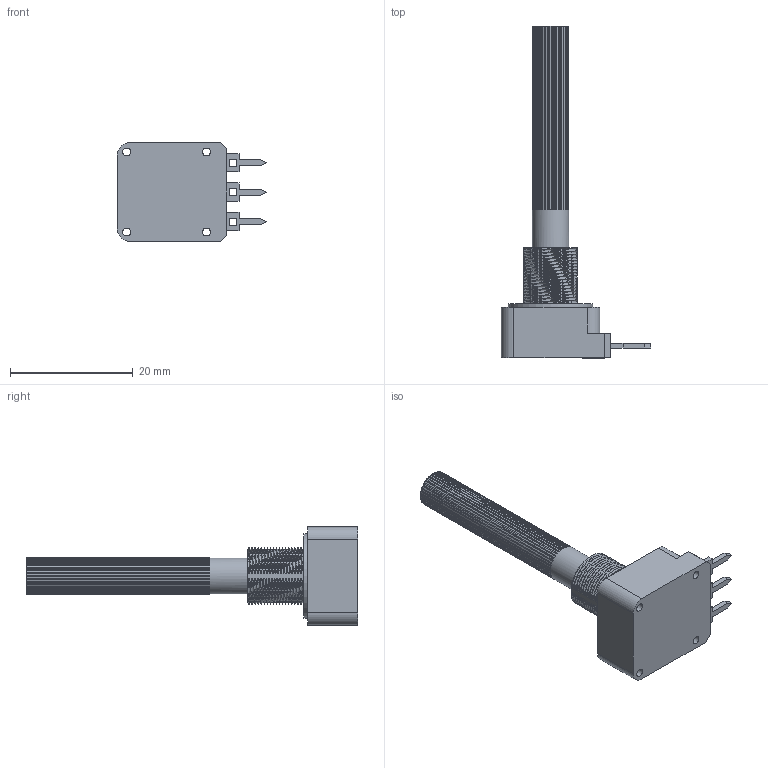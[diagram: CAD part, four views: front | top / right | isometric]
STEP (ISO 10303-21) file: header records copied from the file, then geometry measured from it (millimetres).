
FILE_DESCRIPTION(/* description */ (''),/* implementation_level */ '2;1');
FILE_NAME(/* name */ 'pot_only_36x6_shaft.step',/* time_stamp */ '2023-07-03T18:41:58+02:00',/* author */ (''),/* organization */ (''),/* preprocessor_version */ 'ST-DEVELOPER v19.2',/* originating_system */ 'Autodesk Translation Framework v12.6.0.85',/* authorisation */ '');
FILE_SCHEMA (('AUTOMOTIVE_DESIGN { 1 0 10303 214 3 1 1 }'));
Length unit declared in the file: millimetre
Products named in the file (3): potentiometer only; shaft; fixed_part
Assembly tree (2 placements, depth 2):
  potentiometer only
    shaft
    fixed_part
Bounding box: 24.34 x 54.16 x 16.06 mm (x, y, z)
Volume: 3801.1 mm3; surface area: 2920.6 mm2
Topology: 2 solids, 2 shells, 346 faces, 1011 edges, 674 vertices
Faces by surface type: plane 218, bspline 78, cylinder 50
Full cylindrical faces by diameter (mm): 1.3 x4, 5.95 x1, 13.8 x1
Entity records: 14926 total; most frequent: CARTESIAN_POINT 6288, ORIENTED_EDGE 2022, DIRECTION 1391, EDGE_CURVE 1011, VERTEX_POINT 674, LINE 631, VECTOR 631, AXIS2_PLACEMENT_3D 380
